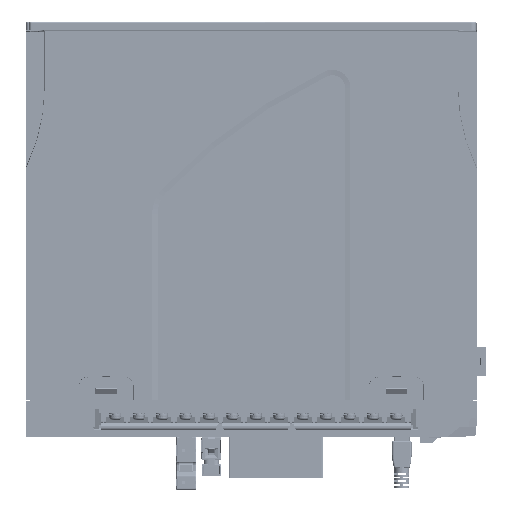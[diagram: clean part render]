
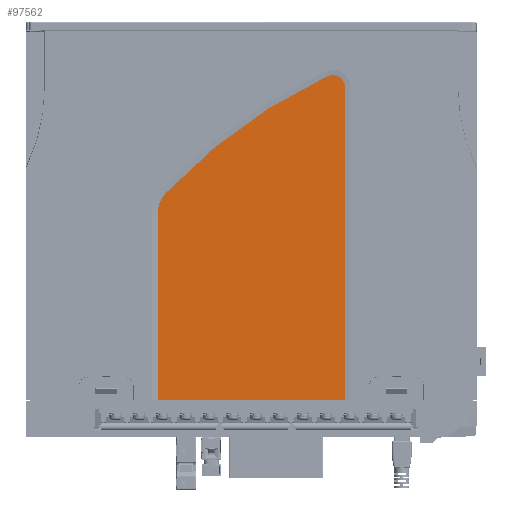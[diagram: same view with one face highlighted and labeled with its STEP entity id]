
A CAD part, front view. The second image highlights one B-rep face of the part: STEP entity #97562.
In plain terms, the highlighted planar face has unit normal (0, -1, 0).
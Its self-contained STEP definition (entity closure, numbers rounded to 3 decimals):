
#34651=DIRECTION('',(0.,0.,-1.));
#34652=VECTOR('',#34651,173.5);
#34653=CARTESIAN_POINT('',(177.662,0.3,
-36.572));
#34654=LINE('',#34653,#34652);
#34655=DIRECTION('',(1.,0.,0.));
#34656=VECTOR('',#34655,104.);
#34657=CARTESIAN_POINT('',(73.662,0.3,
-210.072));
#34658=LINE('',#34657,#34656);
#34659=CARTESIAN_POINT('',(90.662,0.3,
-106.572));
#34660=DIRECTION('',(0.,-1.,0.));
#34661=DIRECTION('',(-0.726,0.,0.687));
#34662=AXIS2_PLACEMENT_3D('',#34659,#34660,#34661);
#34664=CARTESIAN_POINT('',(294.048,0.3,
-299.014));
#34665=DIRECTION('',(0.,-1.,0.));
#34666=DIRECTION('',(-0.425,0.,0.905));
#34667=AXIS2_PLACEMENT_3D('',#34664,#34665,#34666);
#34669=CARTESIAN_POINT('',(170.662,0.3,
-36.572));
#34670=DIRECTION('',(0.,-1.,0.));
#34671=DIRECTION('',(1.,0.,0.));
#34672=AXIS2_PLACEMENT_3D('',#34669,#34670,#34671);
#35814=DIRECTION('',(0.,0.,1.));
#35815=VECTOR('',#35814,103.5);
#35816=CARTESIAN_POINT('',(73.662,0.3,
-210.072));
#35817=LINE('',#35816,#35815);
#38505=CARTESIAN_POINT('',(73.662,0.3,
-210.072));
#38506=CARTESIAN_POINT('',(177.662,0.3,
-210.072));
#38507=VERTEX_POINT('',#38505);
#38508=VERTEX_POINT('',#38506);
#38521=CARTESIAN_POINT('',(177.662,0.3,
-36.572));
#38522=VERTEX_POINT('',#38521);
#38523=CARTESIAN_POINT('',(73.662,0.3,
-106.572));
#38524=VERTEX_POINT('',#38523);
#38525=CARTESIAN_POINT('',(78.313,0.3,
-94.888));
#38526=VERTEX_POINT('',#38525);
#38527=CARTESIAN_POINT('',(167.683,0.3,
-30.237));
#38528=VERTEX_POINT('',#38527);
#97544=CARTESIAN_POINT('',(125.662,0.3,
-119.814));
#97545=DIRECTION('',(0.,1.,0.));
#97546=DIRECTION('',(1.,0.,0.));
#97547=AXIS2_PLACEMENT_3D('',#97544,#97545,#97546);
#97548=PLANE('',#97547);
#97549=ORIENTED_EDGE('',*,*,#97534,.T.);
#97551=ORIENTED_EDGE('',*,*,#97550,.F.);
#97553=ORIENTED_EDGE('',*,*,#97552,.T.);
#97555=ORIENTED_EDGE('',*,*,#97554,.F.);
#97557=ORIENTED_EDGE('',*,*,#97556,.F.);
#97559=ORIENTED_EDGE('',*,*,#97558,.F.);
#97560=EDGE_LOOP('',(#97549,#97551,#97553,#97555,#97557,#97559));
#97561=FACE_OUTER_BOUND('',#97560,.F.);
#97562=ADVANCED_FACE('',(#97561),#97548,.F.);
#34663=CIRCLE('',#34662,17.);
#34668=CIRCLE('',#34667,297.);
#34673=CIRCLE('',#34672,7.);
#97534=EDGE_CURVE('',#38522,#38508,#34654,.T.);
#97550=EDGE_CURVE('',#38507,#38508,#34658,.T.);
#97552=EDGE_CURVE('',#38507,#38524,#35817,.T.);
#97554=EDGE_CURVE('',#38526,#38524,#34663,.T.);
#97556=EDGE_CURVE('',#38528,#38526,#34668,.T.);
#97558=EDGE_CURVE('',#38522,#38528,#34673,.T.);
